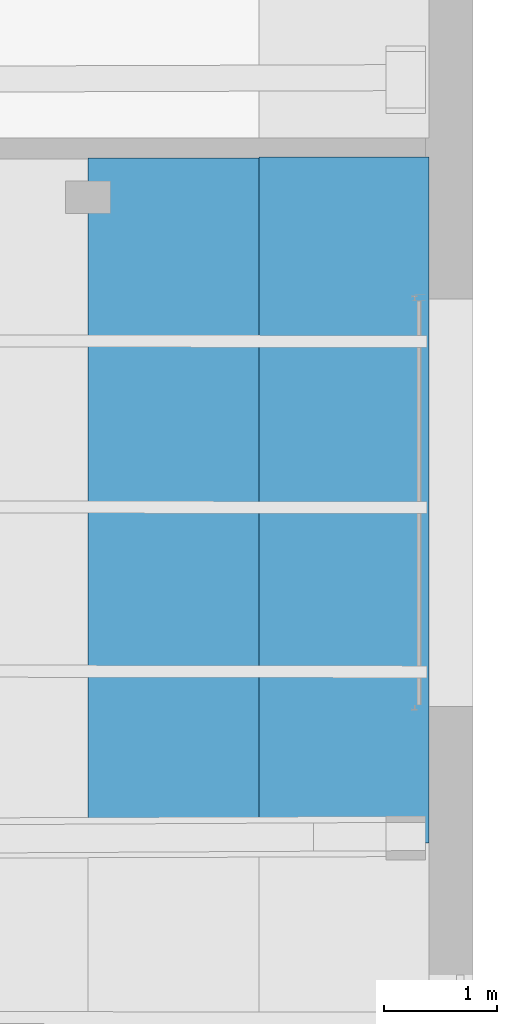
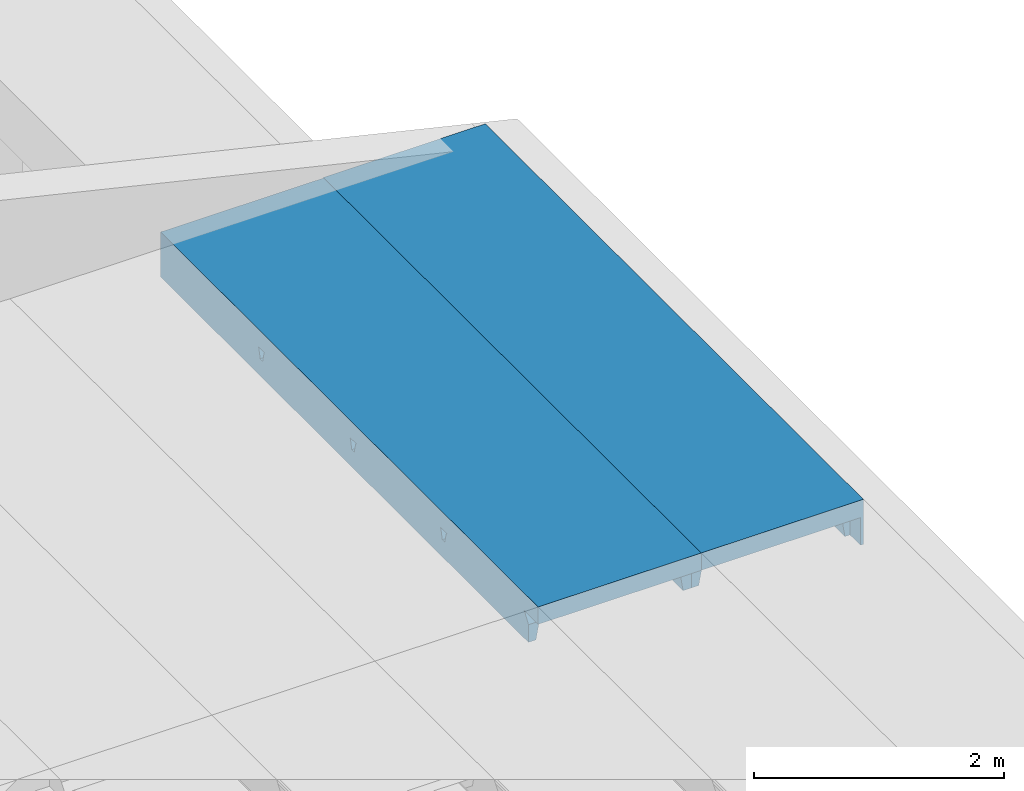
# One storey, part 61 of 301: 2 beams.
"""IFC2X3 building model written with IfcOpenShell, lengths in millimetres."""

from ifc_helpers import new_model, entity, si_unit, converted_unit, derived_unit, money_unit, direction, frame, origin_with_axes, place, context, subcontext, project, spatial, faceted_brep, material, type_object, element, save


model = new_model("IFC2X3")

# Units and contexts
model_context = context("Model", 3, precision=0.01, world=origin_with_axes(), true_north=direction((0.0, 1.0)))
body_context = subcontext(model_context, "Body", "Model", "MODEL_VIEW")
ifc_project = project(units=[si_unit("LENGTHUNIT", "METRE", prefix="MILLI"), si_unit("AREAUNIT", "SQUARE_METRE"), si_unit("VOLUMEUNIT", "CUBIC_METRE"), converted_unit("PLANEANGLEUNIT", "DEGREE", entity("IfcPlaneAngleMeasure", 0.0174532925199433), si_unit("PLANEANGLEUNIT", "RADIAN"), dimensions=[0, 0, 0, 0, 0, 0, 0]), money_unit("EUR"), converted_unit("TIMEUNIT", "Year", entity("IfcTimeMeasure", 31557600.0), si_unit("TIMEUNIT", "SECOND"), dimensions=[0, 0, 1, 0, 0, 0, 0]), si_unit("MASSUNIT", "GRAM", prefix="KILO"), si_unit("THERMODYNAMICTEMPERATUREUNIT", "DEGREE_CELSIUS"), si_unit("LUMINOUSINTENSITYUNIT", "LUMEN"), si_unit("ENERGYUNIT", "JOULE", prefix="MEGA"), derived_unit("THERMALCONDUCTANCEUNIT", [(si_unit("POWERUNIT", "WATT"), 1), (si_unit("LENGTHUNIT", "METRE"), -1), (si_unit("THERMODYNAMICTEMPERATUREUNIT", "KELVIN"), -1)]), derived_unit("SPECIFICHEATCAPACITYUNIT", [(si_unit("ENERGYUNIT", "JOULE"), 1), (si_unit("MASSUNIT", "GRAM", prefix="KILO"), -1), (si_unit("THERMODYNAMICTEMPERATUREUNIT", "KELVIN"), -1)]), derived_unit("MASSDENSITYUNIT", [(si_unit("MASSUNIT", "GRAM", prefix="KILO"), 1), (si_unit("VOLUMEUNIT", "CUBIC_METRE"), -1)])], contexts=[model_context])

# Site, building, storey
site_placement = place(None, frame((0.0, 0.0, 8650.0), z_axis=(0.0, 0.0, 1.0), x_axis=(1.0, 0.0, 0.0)))
site = spatial("IfcSite", under=ifc_project, at=site_placement, Name="43301:001:0844", CompositionType="ELEMENT")
building_placement = place(site_placement, origin_with_axes())
building = spatial("IfcBuilding", under=site, at=building_placement, Name="Kuressaare Ametikooli tuulikute mehaanikute õppekorpus", CompositionType="ELEMENT")
storey_placement = place(building_placement, origin_with_axes())
storey = spatial("IfcBuildingStorey", under=building, at=storey_placement, Name="1.korrus", CompositionType="ELEMENT", Elevation=0.0)

# Beams
ifc_material = material(Name="GENEERILINE - KONSTRUKTRIOON")
beam_type_1 = type_object("IfcBeamType", Name="Precast Double Tee 2 1500 x 440", PredefinedType="NOTDEFINED")
beam_1_placement = place(storey_placement, frame((102505.8777537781, 62150.375687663, 7100.0), z_axis=(0.0, 0.0, 1.0), x_axis=(-1.0, 0.0, 0.0)))
element("IfcBeam", 1, at=beam_1_placement, inside=storey, type_object=beam_type_1, material=ifc_material, context=body_context, shape_type="Brep", body=[
    faceted_brep([(750.0, 0.0, -440.0001340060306), (750.0, 5897.748684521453, -440.0001340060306), (750.0, 5897.748161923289, -267.4324731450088), (750.0, 5872.156006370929, -222.3718133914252), (750.0, 5840.483324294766, -181.3563625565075), (750.0, 5829.520705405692, -169.8235046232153), (750.0, 6058.929209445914, -169.8235046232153), (750.0, 6058.929209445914, 0.0), (750.0, 0.0, 0.0), (750.0, 1672.56899320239, -175.3978342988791), (750.0, 1667.994373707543, -184.1936973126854), (750.0, 1647.254388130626, -271.7709778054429), (750.0, 1607.254334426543, -271.7709778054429), (750.0, 1586.51338708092, -184.1935020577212), (750.0, 1581.938747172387, -175.3977593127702), (750.0, 1573.739956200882, -169.8234995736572), (750.0, 1680.767850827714, -169.8234995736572), (750.0, 3135.444547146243, -184.1936973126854), (750.0, 3114.704561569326, -271.7709778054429), (750.0, 3074.704507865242, -271.7709778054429), (750.0, 3053.963560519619, -184.1935020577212), (750.0, 3049.388920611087, -175.3977593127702), (750.0, 3041.190129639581, -169.8234995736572), (750.0, 3148.218024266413, -169.8234995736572), (750.0, 3140.019166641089, -175.3978342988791), (750.0, 4565.494911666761, -271.7709778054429), (750.0, 4525.494857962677, -271.7709778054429), (750.0, 4504.753910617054, -184.1935020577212), (750.0, 4500.179270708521, -175.3977593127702), (750.0, 4491.980479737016, -169.8234995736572), (750.0, 4599.008374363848, -169.8234995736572), (750.0, 4590.809516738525, -175.3978342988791), (750.0, 4586.234897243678, -184.1936973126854), (680.0000000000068, 0.0, -440.0001340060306), (680.0000000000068, 5897.496650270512, -440.0001340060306), (648.6070035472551, 5897.383097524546, -267.4324731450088), (640.409702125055, 5871.761427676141, -222.3718133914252), (621.1429310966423, 5840.019375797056, -181.3563625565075), (638.1842783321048, 5862.306789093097, -210.1386333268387), (631.9095256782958, 5849.461605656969, -193.5336498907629), (586.8200850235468, 5828.933177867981, -169.8235046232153), (620.1516209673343, 5838.95004734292, -180.2351660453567), (604.4404036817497, 5831.040279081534, -171.9734684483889), (586.8200850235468, 6058.929209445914, -169.8235046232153), (-750.0, 6058.929209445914, 0.0), (-584.2531439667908, 6058.929209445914, -169.8235046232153), (-722.2245446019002, 6058.929209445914, -169.8235046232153), (-722.224544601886, 6058.929209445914, -440.0001340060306), (-750.0, 6058.929209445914, -440.0001340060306), (-750.0, 0.0, 0.0), (631.9095256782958, 0.0, -193.5336498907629), (638.1842783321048, 0.0, -210.1386333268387), (-750.0, 0.0, -440.0001340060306), (-674.9999969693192, 0.0, -440.0001340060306), (-640.3274701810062, 0.0, -219.6283094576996), (-634.3038197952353, 0.0, -200.1453415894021), (-621.7526411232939, 0.0, -184.072435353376), (-604.310838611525, 0.0, -173.5057932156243), (-584.2531439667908, 0.0, -169.8234995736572), (586.8200850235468, 0.0, -169.8234995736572), (604.4404036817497, 0.0, -171.9734684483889), (620.1516209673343, 0.0, -180.2351660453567), (620.1516209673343, 1670.265934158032, -180.2351660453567), (623.651571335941, 1668.20141580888, -184.1936973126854), (610.952498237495, 1672.796844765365, -175.3978342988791), (638.1842783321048, 1662.03334144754, -210.1386333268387), (649.3962514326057, 1647.419243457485, -271.7709778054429), (631.9095256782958, 1665.976003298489, -193.5336498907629), (649.3962514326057, 1607.419189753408, -271.7709778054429), (638.1842783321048, 1592.841192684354, -210.1386333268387), (631.9095256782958, 1588.918921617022, -193.5336498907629), (623.651398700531, 1586.720429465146, -184.1935020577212), (610.952355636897, 1582.166598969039, -175.3977593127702), (620.1516209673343, 1584.667445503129, -180.2351660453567), (586.8200850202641, 1574.007352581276, -169.8234995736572), (604.4404036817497, 1577.140718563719, -171.9734684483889), (586.8200850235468, 1681.035247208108, -169.8234995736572), (604.4404036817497, 1677.844150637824, -171.9734684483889), (649.3962514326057, 3114.869416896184, -271.7709778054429), (623.651571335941, 3135.65158924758, -184.1936973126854), (631.9095256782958, 3133.426176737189, -193.5336498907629), (638.1842783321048, 3129.483514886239, -210.1386333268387), (649.3962514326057, 3074.869363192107, -271.7709778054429), (638.1842783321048, 3060.291366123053, -210.1386333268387), (631.9095256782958, 3056.369095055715, -193.5336498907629), (623.651398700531, 3054.170602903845, -184.1935020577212), (620.1516209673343, 3052.117618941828, -180.2351660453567), (610.952355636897, 3049.616772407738, -175.3977593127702), (604.4404036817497, 3044.590892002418, -171.9734684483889), (586.8200850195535, 3041.457526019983, -169.8234995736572), (586.8200850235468, 3148.485420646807, -169.8234995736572), (610.952498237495, 3140.247018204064, -175.3978342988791), (604.4404036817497, 3145.294324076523, -171.9734684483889), (620.1516209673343, 3137.716107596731, -180.2351660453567), (649.3962514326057, 4565.659766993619, -271.7709778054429), (649.3962514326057, 4525.659713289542, -271.7709778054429), (638.1842783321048, 4511.081716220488, -210.1386333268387), (631.9095256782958, 4507.159445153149, -193.5336498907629), (623.651398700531, 4504.96095300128, -184.1935020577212), (620.1516209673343, 4502.907969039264, -180.2351660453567), (610.952355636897, 4500.407122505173, -175.3977593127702), (604.4404036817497, 4495.381242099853, -171.9734684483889), (586.8200850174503, 4492.247876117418, -169.8234995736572), (586.8200850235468, 4599.275770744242, -169.8234995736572), (604.4404036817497, 4596.084674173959, -171.9734684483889), (610.952498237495, 4591.0373683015, -175.3978342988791), (620.1516209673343, 4588.506457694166, -180.2351660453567), (623.651571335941, 4586.441939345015, -184.1936973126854), (631.9095256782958, 4584.216526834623, -193.5336498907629), (638.1842783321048, 4580.273864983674, -210.1386333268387), (-584.2531439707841, 3043.376516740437, -169.8234995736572), (-584.2531439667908, 3150.404411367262, -169.8234995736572), (-584.2531439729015, 4494.16686683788, -169.8234995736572), (-584.2531439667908, 4601.194761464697, -169.8234995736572), (-584.2531439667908, 5824.71674123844, -169.8235046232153), (-584.2531439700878, 1575.926343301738, -169.8234995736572), (-584.2531439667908, 1682.954237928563, -169.8234995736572), (-721.3794874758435, 5824.223019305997, -169.8235046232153), (-721.4189577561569, 5835.185496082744, -181.3563625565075), (-721.5329934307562, 5866.857767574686, -222.3718133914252), (-721.6251365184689, 5892.449591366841, -267.4324731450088), (-721.6251384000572, 5892.450113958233, -440.0001340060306), (-674.9999969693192, 5892.617987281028, -440.0001340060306), (-640.7591234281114, 5867.148593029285, -222.3718133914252), (-640.3274701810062, 5865.031576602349, -219.6283094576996), (-640.3274701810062, 4580.121572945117, -219.6283094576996), (-648.5314139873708, 4567.786628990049, -271.7709778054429), (-648.5314139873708, 4527.786575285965, -271.7709778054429), (-640.3274701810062, 4515.42419928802, -219.6283094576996), (-640.3274701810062, 3129.331222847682, -219.6283094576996), (-648.5314139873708, 3116.996278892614, -271.7709778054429), (-648.5314139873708, 3076.99622518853, -271.7709778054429), (-640.3274701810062, 3064.633849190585, -219.6283094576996), (-640.3274701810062, 1661.881049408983, -219.6283094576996), (-648.5314139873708, 1649.546105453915, -271.7709778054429), (-648.5314139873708, 1609.546051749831, -271.7709778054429), (-640.3274701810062, 1597.183675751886, -219.6283094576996), (-647.848808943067, 5892.71522224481, -267.4324731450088), (-634.3038197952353, 1592.559659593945, -200.1453415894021), (-621.7526411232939, 1588.698256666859, -184.072435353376), (-621.847180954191, 1588.761378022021, -184.1935020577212), (-604.310838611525, 1581.375240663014, -173.5057932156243), (-607.4338079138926, 1584.163119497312, -175.3977593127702), (-734.9395169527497, 3043.623440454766, -169.8234995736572), (-734.7641351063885, 3150.651047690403, -169.8234995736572), (-604.310838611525, 3145.021278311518, -173.5057932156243), (-604.310838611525, 4499.615764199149, -173.5057932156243), (-734.9395169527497, 4494.413790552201, -169.8234995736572), (-734.7641351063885, 4601.441397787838, -169.8234995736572), (-604.310838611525, 5828.144742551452, -173.5057932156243), (-604.310838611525, 4595.811628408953, -173.5057932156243), (-734.9395169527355, 1576.173267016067, -169.8234995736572), (-734.7641351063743, 1683.200874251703, -169.8234995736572), (-604.310838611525, 1677.571104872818, -173.5057932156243), (-604.310838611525, 3048.825414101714, -173.5057932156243), (-617.2693620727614, 5835.560485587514, -181.3563625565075), (-621.7526411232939, 5837.641731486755, -184.072435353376), (-634.3038197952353, 5850.008255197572, -200.1453415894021), (-634.3038197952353, 4584.725644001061, -200.1453415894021), (-734.7850664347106, 4588.667954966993, -184.1936973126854), (-734.8190521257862, 4567.928025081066, -271.7709778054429), (-621.8473334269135, 4588.482888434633, -184.1936973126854), (-734.884598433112, 4527.928078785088, -271.7709778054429), (-621.8471809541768, 4507.001901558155, -184.1935020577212), (-634.3038197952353, 4510.800183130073, -200.1453415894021), (-734.9185857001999, 4507.187187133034, -184.1935020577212), (-634.3038197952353, 3133.935293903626, -200.1453415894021), (-621.8473334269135, 3137.692538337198, -184.1936973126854), (-734.7850664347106, 3137.877604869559, -184.1936973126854), (-734.8190521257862, 3117.137674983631, -271.7709778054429), (-734.884598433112, 3077.137728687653, -271.7709778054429), (-734.9185857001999, 3056.396837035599, -184.1935020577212), (-621.8471809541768, 3056.21155146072, -184.1935020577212), (-634.3038197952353, 3060.009833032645, -200.1453415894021), (-634.3038197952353, 1666.485120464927, -200.1453415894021), (-621.8473334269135, 1670.242364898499, -184.1936973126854), (-734.7850664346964, 1670.427431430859, -184.1936973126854), (-734.819052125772, 1649.687501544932, -271.7709778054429), (-734.8845984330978, 1609.687555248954, -271.7709778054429), (-734.9185857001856, 1588.9466635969, -184.1935020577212), (-734.926081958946, 1584.372035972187, -175.3977593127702), (-734.9260819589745, 3051.822209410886, -175.3977593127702), (-607.4338079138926, 3051.613292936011, -175.3977593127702), (-734.7775702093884, 3142.452212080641, -175.3978342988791), (-607.4339316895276, 3142.243539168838, -175.3978342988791), (-621.7526411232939, 3137.755450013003, -184.072435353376), (-621.7526411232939, 4506.938780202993, -184.072435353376), (-607.4338079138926, 4502.403643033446, -175.3977593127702), (-734.9260819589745, 4502.612559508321, -175.3977593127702), (-734.7775702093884, 4593.242562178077, -175.3978342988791), (-607.4339316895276, 4593.033889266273, -175.3978342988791), (-621.7526411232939, 4588.545800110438, -184.072435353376), (-734.7775702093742, 1675.002038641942, -175.3978342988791), (-607.4339316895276, 1674.793365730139, -175.3978342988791), (-621.7526411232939, 1670.305276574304, -184.072435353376), (-621.7526411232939, 3056.148430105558, -184.072435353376)], [[[0, 1, 2, 3, 4, 5, 6, 7, 8], [9, 10, 11, 12, 13, 14, 15, 16], [17, 18, 19, 20, 21, 22, 23, 24], [25, 26, 27, 28, 29, 30, 31, 32]], [[33, 34, 1, 0]], [[1, 34, 35, 2]], [[2, 35, 36, 3]], [[37, 4, 3, 36, 38, 39]], [[40, 5, 4, 37, 41, 42]], [[5, 40, 43, 6]], [[44, 7, 6, 43, 45, 46, 47, 48]], [[49, 8, 7, 44]], [[50, 51, 33, 0, 8, 49, 52, 53, 54, 55, 56, 57, 58, 59, 60, 61]], [[62, 63, 10, 9, 64]], [[65, 66, 11, 10, 63, 67]], [[66, 68, 12, 11]], [[13, 12, 68, 69, 70, 71]], [[72, 14, 13, 71, 73]], [[74, 15, 14, 72, 75]], [[74, 76, 16, 15]], [[77, 64, 9, 16, 76]], [[78, 18, 17, 79, 80, 81]], [[82, 19, 18, 78]], [[19, 82, 83, 84, 85, 20]], [[21, 20, 85, 86, 87]], [[22, 21, 87, 88, 89]], [[90, 23, 22, 89]], [[91, 24, 23, 90, 92]], [[79, 17, 24, 91, 93]], [[26, 25, 94, 95]], [[95, 96, 97, 98, 27, 26]], [[27, 98, 99, 100, 28]], [[28, 100, 101, 102, 29]], [[30, 29, 102, 103]], [[31, 30, 103, 104, 105]], [[32, 31, 105, 106, 107]], [[25, 32, 107, 108, 109, 94]], [[96, 95, 94, 109, 38, 36, 35, 34, 33, 51, 69, 68, 66, 65, 83, 82, 78, 81]], [[39, 38, 109, 108]], [[39, 108, 107, 106, 41, 37]], [[41, 106, 105, 104, 42]], [[40, 42, 104, 103]], [[110, 111, 112, 113, 114, 45, 43, 40, 103, 102, 90, 89, 76, 74, 59, 58, 115, 116]], [[117, 46, 45, 114]], [[117, 118, 119, 120, 121, 47, 46]], [[122, 53, 52, 48, 47, 121]], [[52, 49, 44, 48]], [[70, 69, 51, 50]], [[123, 124, 125, 126, 127, 128, 129, 130, 131, 132, 133, 134, 135, 136, 54, 53, 122, 137]], [[136, 138, 55, 54]], [[139, 56, 55, 138, 140]], [[141, 57, 56, 139, 142]], [[141, 115, 58, 57]], [[74, 75, 60, 59]], [[73, 61, 60, 75, 72]], [[70, 50, 61, 73, 71]], [[63, 62, 86, 85, 84, 67]], [[64, 77, 88, 87, 86, 62]], [[83, 65, 67, 84]], [[88, 77, 76, 89]], [[93, 99, 98, 97, 80, 79]], [[81, 80, 97, 96]], [[92, 90, 102, 101]], [[92, 101, 100, 99, 93, 91]], [[110, 143, 144, 111]], [[111, 145, 146, 112]], [[147, 148, 113, 112]], [[149, 114, 113, 150]], [[116, 115, 151, 152]], [[110, 116, 153, 154]], [[149, 155, 118, 117, 114]], [[119, 118, 155, 156, 157, 124, 123]], [[119, 123, 137, 120]], [[137, 122, 121, 120]], [[124, 157, 158, 125]], [[159, 160, 126, 125, 158, 161]], [[160, 162, 127, 126]], [[163, 164, 128, 127, 162, 165]], [[166, 129, 128, 164]], [[167, 168, 169, 130, 129, 166]], [[130, 169, 170, 131]], [[171, 172, 173, 132, 131, 170]], [[173, 174, 133, 132]], [[174, 175, 176, 177, 134, 133]], [[135, 134, 177, 178]], [[178, 179, 140, 138, 136, 135]], [[140, 179, 180, 142, 139]], [[142, 180, 151, 115, 141]], [[181, 143, 110, 154, 182]], [[170, 169, 168, 183, 144, 143, 181, 171]], [[111, 144, 183, 184, 145]], [[185, 186, 187, 146, 145, 184]], [[147, 112, 146, 187, 188]], [[160, 159, 189, 148, 147, 188, 165, 162]], [[148, 189, 190, 150, 113]], [[149, 150, 190, 191, 156, 155]], [[179, 178, 177, 176, 192, 152, 151, 180]], [[153, 116, 152, 192, 193]], [[193, 194, 195, 182, 154, 153]], [[156, 191, 161, 158, 157]], [[189, 159, 161, 191, 190]], [[166, 164, 163, 186, 185, 167]], [[188, 187, 186, 163, 165]], [[184, 183, 168, 167, 185]], [[171, 181, 182, 195, 172]], [[175, 174, 173, 172, 195, 194]], [[194, 193, 192, 176, 175]]]),
])
beam_type_2 = type_object("IfcBeamType", Name="Precast Double Tee 2 1510 x 440", PredefinedType="NOTDEFINED")
beam_2_placement = place(storey_placement, frame((101000.8777537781, 62142.1055346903, 7100.000000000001), z_axis=(0.0, 0.0, 1.0), x_axis=(-1.0, 0.0, 0.0)))
element("IfcBeam", 2, at=beam_2_placement, inside=storey, type_object=beam_type_2, material=ifc_material, context=body_context, shape_type="Brep", body=[
    faceted_brep([(754.9999999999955, 0.0, -440.0001340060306), (754.9999999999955, 5894.915270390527, -440.0001340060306), (754.9999999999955, 5894.914747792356, -267.4324731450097), (754.9999999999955, 5869.322592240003, -222.3718133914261), (754.9999999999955, 5837.649910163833, -181.3563625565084), (754.9999999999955, 5826.687291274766, -169.8235046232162), (754.9999999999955, 6050.694639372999, -169.8235046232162), (754.9999999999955, 6050.694639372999, 0.0), (754.9999999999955, 0.0, 0.0), (754.9999999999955, 1661.824463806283, -175.39783429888), (754.9999999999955, 1657.249844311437, -184.1936973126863), (754.9999999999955, 1636.50985873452, -271.7709778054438), (754.9999999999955, 1596.509805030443, -271.7709778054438), (754.9999999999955, 1575.768857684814, -184.1935020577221), (754.9999999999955, 1571.194217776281, -175.3977593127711), (754.9999999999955, 1562.995426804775, -169.8234995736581), (754.9999999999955, 1670.023321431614, -169.8234995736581), (754.9999999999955, 3124.700017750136, -184.1936973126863), (754.9999999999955, 3103.96003217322, -271.7709778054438), (754.9999999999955, 3063.959978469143, -271.7709778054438), (754.9999999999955, 3043.219031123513, -184.1935020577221), (754.9999999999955, 3038.64439121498, -175.3977593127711), (754.9999999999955, 3030.445600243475, -169.8234995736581), (754.9999999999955, 3137.473494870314, -169.8234995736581), (754.9999999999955, 3129.274637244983, -175.39783429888), (754.9999999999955, 4554.750382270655, -271.7709778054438), (754.9999999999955, 4514.750328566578, -271.7709778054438), (754.9999999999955, 4494.009381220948, -184.1935020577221), (754.9999999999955, 4489.434741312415, -175.3977593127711), (754.9999999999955, 4481.23595034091, -169.8234995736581), (754.9999999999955, 4588.263844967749, -169.8234995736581), (754.9999999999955, 4580.064987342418, -175.39783429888), (754.9999999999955, 4575.490367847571, -184.1936973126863), (684.5333333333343, 0.0, -440.0001340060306), (684.5333333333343, 5894.661555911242, -440.0001340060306), (652.9146841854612, 5894.547190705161, -267.4324731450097), (644.6584606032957, 5868.92530870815, -222.3718133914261), (625.6051084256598, 5837.184025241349, -181.3563625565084), (642.4305280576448, 5859.527505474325, -210.2122455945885), (636.4790028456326, 5847.120892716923, -194.1736948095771), (594.211646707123, 5826.108374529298, -169.8235046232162), (625.4118792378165, 5836.966827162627, -181.1285984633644), (610.5576441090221, 5828.847197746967, -172.6428773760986), (594.211646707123, 6050.694639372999, -169.8235046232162), (593.6993855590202, 6050.694639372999, -169.7351493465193), (590.5789219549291, 6050.694639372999, -169.8234995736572), (-588.1481649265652, 6050.694639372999, -169.8235046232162), (-754.9999999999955, 6050.694639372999, -169.8235046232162), (-754.9999999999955, 6050.694639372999, 0.0), (-754.9999999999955, 0.0, 0.0), (636.4790028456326, 0.0, -194.1736948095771), (642.4305280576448, 0.0, -210.2122455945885), (-754.9999999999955, 0.0, -440.0001340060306), (-679.4999969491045, 0.0, -440.0001340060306), (-644.5028387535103, 0.0, -219.0380957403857), (-638.2645371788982, 0.0, -199.6996008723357), (-625.6043121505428, 0.0, -183.8058130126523), (-608.1505435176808, 0.0, -173.40101840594), (-588.1481649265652, 0.0, -169.8234995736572), (590.5789219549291, 0.0, -169.8234995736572), (593.6993855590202, 0.0, -169.7351493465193), (610.5576441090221, 0.0, -172.6428773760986), (625.4118792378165, 0.0, -181.1285984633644), (625.4118792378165, 1659.056315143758, -181.1285984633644), (628.0122301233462, 1657.457934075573, -184.1936973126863), (615.3801898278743, 1662.053253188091, -175.39783429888), (642.4305280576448, 1651.272614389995, -210.2122455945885), (653.7096051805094, 1636.67583924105, -271.7709778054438), (636.4790028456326, 1655.080604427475, -194.1736948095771), (653.7096051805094, 1596.675785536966, -271.7709778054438), (642.4305280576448, 1582.115331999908, -210.2122455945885), (636.4790028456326, 1578.326679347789, -194.1736948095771), (628.0120644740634, 1575.976947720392, -184.1935020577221), (615.3800585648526, 1571.423007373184, -175.3977593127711), (625.4118792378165, 1574.387161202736, -181.1285984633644), (594.2116174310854, 1563.258904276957, -169.8234995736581), (610.5576441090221, 1567.378945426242, -172.6428773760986), (594.2116174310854, 1670.286798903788, -169.8234995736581), (610.5576441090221, 1666.113208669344, -172.6428773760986), (653.7096051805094, 3104.12601267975, -271.7709778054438), (628.0122301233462, 3124.908107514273, -184.1936973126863), (636.4790028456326, 3122.530777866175, -194.1736948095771), (642.4305280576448, 3118.722787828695, -210.2122455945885), (653.7096051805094, 3064.125958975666, -271.7709778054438), (642.4305280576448, 3049.565505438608, -210.2122455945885), (636.4790028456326, 3045.776852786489, -194.1736948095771), (628.0120644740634, 3043.427121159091, -184.1935020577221), (625.4118792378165, 3041.837334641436, -181.1285984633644), (615.3800585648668, 3038.873180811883, -175.3977593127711), (610.5576441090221, 3034.829118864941, -172.6428773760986), (594.2116174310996, 3030.709077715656, -169.8234995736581), (594.2116174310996, 3137.736972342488, -169.8234995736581), (615.3801898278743, 3129.50342662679, -175.39783429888), (610.5576441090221, 3133.563382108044, -172.6428773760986), (625.4118792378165, 3126.506488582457, -181.1285984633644), (653.7096051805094, 4554.916362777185, -271.7709778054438), (653.7096051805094, 4514.916309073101, -271.7709778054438), (642.4305280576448, 4500.355855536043, -210.2122455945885), (636.4790028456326, 4496.567202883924, -194.1736948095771), (628.0120644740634, 4494.217471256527, -184.1935020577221), (625.4118792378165, 4492.627684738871, -181.1285984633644), (615.3800585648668, 4489.663530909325, -175.3977593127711), (610.5576441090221, 4485.619468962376, -172.6428773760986), (594.2116174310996, 4481.499427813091, -169.8234995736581), (594.2116174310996, 4588.527322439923, -169.8234995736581), (610.5576441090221, 4584.353732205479, -172.6428773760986), (615.3801898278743, 4580.293776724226, -175.39783429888), (625.4118792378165, 4577.296838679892, -181.1285984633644), (628.0122301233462, 4575.698457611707, -184.1936973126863), (636.4790028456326, 4573.32112796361, -194.1736948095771), (642.4305280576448, 4569.51313792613, -210.2122455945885), (-588.1481649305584, 3032.646563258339, -169.8234995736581), (-588.1481649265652, 3139.674457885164, -169.8234995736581), (-588.1481649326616, 4483.436913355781, -169.8234995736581), (-588.1481649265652, 4590.464807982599, -169.8234995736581), (-588.1481649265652, 5821.851300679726, -169.8235046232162), (-588.1481649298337, 1565.19638981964, -169.8234995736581), (-588.1481649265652, 1672.224284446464, -169.8234995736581), (-754.9999999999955, 5821.250552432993, -169.8235046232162), (-754.9999999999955, 5832.213171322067, -181.3563625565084), (-754.9999999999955, 5863.88585339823, -222.3718133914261), (-754.9999999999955, 5889.47800895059, -267.4324731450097), (-754.9999999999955, 5889.478531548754, -440.0001340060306), (-754.9999999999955, 1578.243234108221, -184.1935020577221), (-754.9999999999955, 1598.984181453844, -271.7709778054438), (-754.9999999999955, 1638.984235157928, -271.7709778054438), (-754.9999999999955, 1659.724220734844, -184.1936973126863), (-754.9999999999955, 1664.298840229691, -175.39783429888), (-754.9999999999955, 1672.497697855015, -169.8234995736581), (-754.9999999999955, 1565.469803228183, -169.8234995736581), (-754.9999999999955, 1573.668594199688, -175.3977593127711), (-754.9999999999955, 3066.434354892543, -271.7709778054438), (-754.9999999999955, 3106.434408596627, -271.7709778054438), (-754.9999999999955, 3127.174394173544, -184.1936973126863), (-754.9999999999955, 3131.74901366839, -175.39783429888), (-754.9999999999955, 3139.947871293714, -169.8234995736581), (-754.9999999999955, 3032.919976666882, -169.8234995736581), (-754.9999999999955, 3041.118767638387, -175.3977593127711), (-754.9999999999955, 3045.693407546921, -184.1935020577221), (-754.9999999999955, 4557.224758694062, -271.7709778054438), (-754.9999999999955, 4577.964744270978, -184.1936973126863), (-754.9999999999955, 4582.539363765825, -175.39783429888), (-754.9999999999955, 4590.738221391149, -169.8234995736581), (-754.9999999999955, 4483.710326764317, -169.8234995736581), (-754.9999999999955, 4491.909117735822, -175.3977593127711), (-754.9999999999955, 4496.483757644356, -184.1935020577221), (-754.9999999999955, 4517.224704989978, -271.7709778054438), (-679.4999969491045, 5889.750368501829, -440.0001340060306), (-645.030850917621, 5864.281796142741, -222.3718133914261), (-644.5028387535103, 5861.709355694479, -219.0380957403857), (-644.5028387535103, 4569.531852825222, -219.0380957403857), (-652.8549567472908, 4557.057377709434, -271.7709778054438), (-652.8549567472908, 4517.05732400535, -271.7709778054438), (-644.5028387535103, 4504.55492506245, -219.0380957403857), (-644.5028387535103, 3118.741502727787, -219.0380957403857), (-652.8549567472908, 3106.267027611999, -271.7709778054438), (-652.8549567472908, 3066.266973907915, -271.7709778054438), (-644.5028387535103, 3053.764574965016, -219.0380957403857), (-644.5028387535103, 1651.29132928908, -219.0380957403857), (-652.8549567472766, 1638.816854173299, -271.7709778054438), (-652.8549567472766, 1598.816800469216, -271.7709778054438), (-644.5028387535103, 1586.314401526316, -219.0380957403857), (-652.1678010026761, 5889.848255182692, -267.4324731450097), (-638.2645371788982, 1581.724249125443, -199.6996008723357), (-625.6043121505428, 1577.829562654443, -183.8058130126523), (-625.9131265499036, 1578.031704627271, -184.1935020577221), (-608.1505435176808, 1570.491090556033, -173.40101840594), (-611.5000237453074, 1573.43344654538, -175.3977593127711), (-608.1505435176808, 3134.445339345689, -173.40101840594), (-608.1505435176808, 4488.731614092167, -173.40101840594), (-608.1505435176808, 5825.179906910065, -173.40101840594), (-608.1505435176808, 4585.235689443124, -173.40101840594), (-608.1505435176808, 1666.99516590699, -173.40101840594), (-608.1505435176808, 3037.941263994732, -173.40101840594), (-621.4954235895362, 5832.693853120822, -181.3563625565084), (-625.6043121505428, 5834.570557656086, -183.8058130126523), (-638.2645371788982, 5846.79837113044, -199.6996008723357), (-638.2645371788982, 1655.86083461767, -199.6996008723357), (-625.913282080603, 1659.512691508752, -184.1936973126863), (-625.6043121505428, 1659.713919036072, -183.8058130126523), (-611.5001495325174, 1664.063692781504, -175.39783429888), (-638.2645371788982, 3123.311008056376, -199.6996008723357), (-625.913282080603, 3126.962864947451, -184.1936973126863), (-625.6043121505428, 3127.164092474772, -183.8058130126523), (-611.5001495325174, 3131.513866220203, -175.39783429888), (-611.5000237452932, 3040.883619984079, -175.3977593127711), (-625.6043121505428, 3045.27973609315, -183.8058130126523), (-625.9131265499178, 3045.481878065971, -184.1935020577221), (-638.2645371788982, 3049.174422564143, -199.6996008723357), (-638.2645371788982, 4574.101358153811, -199.6996008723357), (-625.913282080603, 4577.753215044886, -184.1936973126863), (-625.6043121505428, 4577.954442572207, -183.8058130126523), (-611.5001495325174, 4582.304216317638, -175.39783429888), (-611.5000237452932, 4491.673970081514, -175.3977593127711), (-625.6043121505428, 4496.070086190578, -183.8058130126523), (-625.9131265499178, 4496.272228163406, -184.1935020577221), (-638.2645371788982, 4499.964772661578, -199.6996008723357)], [[[0, 1, 2, 3, 4, 5, 6, 7, 8], [9, 10, 11, 12, 13, 14, 15, 16], [17, 18, 19, 20, 21, 22, 23, 24], [25, 26, 27, 28, 29, 30, 31, 32]], [[33, 34, 1, 0]], [[1, 34, 35, 2]], [[2, 35, 36, 3]], [[37, 4, 3, 36, 38, 39]], [[40, 5, 4, 37, 41, 42]], [[5, 40, 43, 6]], [[7, 6, 43, 44, 45, 46, 47, 48]], [[49, 8, 7, 48]], [[50, 51, 33, 0, 8, 49, 52, 53, 54, 55, 56, 57, 58, 59, 60, 61, 62]], [[63, 64, 10, 9, 65]], [[66, 67, 11, 10, 64, 68]], [[67, 69, 12, 11]], [[13, 12, 69, 70, 71, 72]], [[73, 14, 13, 72, 74]], [[75, 15, 14, 73, 76]], [[75, 77, 16, 15]], [[78, 65, 9, 16, 77]], [[79, 18, 17, 80, 81, 82]], [[83, 19, 18, 79]], [[19, 83, 84, 85, 86, 20]], [[21, 20, 86, 87, 88]], [[22, 21, 88, 89, 90]], [[91, 23, 22, 90]], [[92, 24, 23, 91, 93]], [[80, 17, 24, 92, 94]], [[26, 25, 95, 96]], [[96, 97, 98, 99, 27, 26]], [[27, 99, 100, 101, 28]], [[28, 101, 102, 103, 29]], [[30, 29, 103, 104]], [[31, 30, 104, 105, 106]], [[32, 31, 106, 107, 108]], [[25, 32, 108, 109, 110, 95]], [[97, 96, 95, 110, 38, 36, 35, 34, 33, 51, 70, 69, 67, 66, 84, 83, 79, 82]], [[39, 38, 110, 109]], [[39, 109, 108, 107, 41, 37]], [[41, 107, 106, 105, 42]], [[40, 42, 105, 104, 103, 102, 93, 91, 90, 89, 78, 77, 75, 76, 61, 60, 44, 43]], [[60, 59, 45, 44]], [[111, 112, 113, 114, 115, 46, 45, 59, 58, 116, 117]], [[115, 118, 47, 46]], [[48, 47, 118, 119, 120, 121, 122, 52, 49], [123, 124, 125, 126, 127, 128, 129, 130], [131, 132, 133, 134, 135, 136, 137, 138], [139, 140, 141, 142, 143, 144, 145, 146]], [[71, 70, 51, 50]], [[52, 122, 147, 53]], [[148, 149, 150, 151, 152, 153, 154, 155, 156, 157, 158, 159, 160, 161, 54, 53, 147, 162]], [[161, 163, 55, 54]], [[164, 56, 55, 163, 165]], [[166, 57, 56, 164, 167]], [[166, 116, 58, 57]], [[74, 62, 61, 76, 73]], [[71, 50, 62, 74, 72]], [[64, 63, 87, 86, 85, 68]], [[65, 78, 89, 88, 87, 63]], [[84, 66, 68, 85]], [[94, 100, 99, 98, 81, 80]], [[82, 81, 98, 97]], [[93, 102, 101, 100, 94, 92]], [[135, 112, 111, 136]], [[112, 168, 169, 113]], [[114, 113, 143, 142]], [[170, 115, 114, 171]], [[129, 128, 117, 116]], [[111, 117, 172, 173]], [[119, 118, 115, 170, 174]], [[174, 175, 176, 149, 148, 120, 119]], [[162, 121, 120, 148]], [[147, 122, 121, 162]], [[165, 163, 161, 160, 124, 123]], [[125, 124, 160, 159]], [[159, 158, 177, 178, 126, 125]], [[126, 178, 179, 180, 127]], [[127, 180, 172, 117, 128]], [[129, 116, 166, 167, 130]], [[130, 167, 164, 165, 123]], [[131, 156, 155, 132]], [[154, 181, 182, 133, 132, 155]], [[182, 183, 184, 134, 133]], [[184, 168, 112, 135, 134]], [[111, 173, 185, 137, 136]], [[185, 186, 187, 138, 137]], [[188, 157, 156, 131, 138, 187]], [[189, 190, 140, 139, 151, 150]], [[191, 192, 141, 140, 190]], [[171, 114, 142, 141, 192]], [[169, 193, 144, 143, 113]], [[194, 195, 145, 144, 193]], [[153, 152, 146, 145, 195, 196]], [[152, 151, 139, 146]], [[149, 176, 189, 150]], [[181, 154, 153, 196]], [[188, 177, 158, 157]], [[183, 194, 193, 169, 168, 184]], [[170, 171, 192, 191, 175, 174]], [[180, 179, 186, 185, 173, 172]], [[175, 191, 190, 189, 176]], [[178, 177, 188, 187, 186, 179]], [[181, 196, 195, 194, 183, 182]]]),
])

save(model, "model.ifc")
